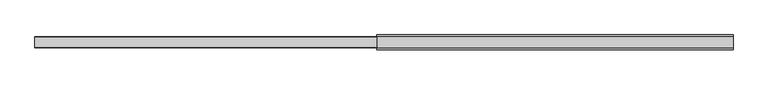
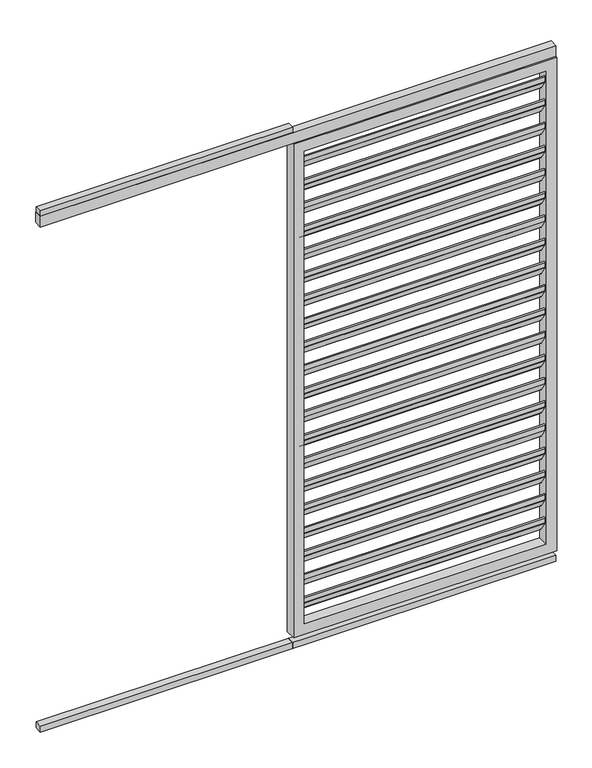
"""IFC4 building model written with IfcOpenShell, lengths in millimetres: proxy geometry, Renson_Algarve_Loggia_Paro_Aluminium : Renson_Algarve_Loggia_Paro_Aluminium."""

from ifc_helpers import new_model, si_unit, point, frame, frame_2d, origin, origin_with_axes, place, context, project, spatial, polyline, circle_curve, trimmed, segment, composite_curve, outline, extrude, source, transform, mapped, element, save


def generic_models_435024a3(model_context):
    return source(origin(), model_context, "Body", "SweptSolid", [
        extrude(outline(composite_curve([segment(polyline([(-10.1515804, 1894.292689), (14.3324079, 1856.5906532), (14.3324079, 1837.3412281)]), True, "CONTINUOUS"), segment(trimmed(circle_curve(frame_2d((11.3324079, 1837.3412281)), 3.0), [point((14.3324079, 1837.3412281))], [point((8.8163962, 1835.707311))], False, "CARTESIAN"), True, "CONTINUOUS"), segment(polyline([(8.8163962, 1835.707311), (-15.1836038, 1872.6640702)]), True, "CONTINUOUS"), segment(trimmed(circle_curve(frame_2d((-12.6675921, 1874.2979873)), 3.0), [point((-15.1836038, 1872.6640702))], [point((-15.6675921, 1874.2979873))], False, "CARTESIAN"), True, "CONTINUOUS"), segment(polyline([(-15.6675921, 1874.2979873), (-15.6675921, 1892.6587719)]), True, "CONTINUOUS"), segment(trimmed(circle_curve(frame_2d((-12.6675921, 1892.6587719)), 3.0), [point((-15.6675921, 1892.6587719))], [point((-10.1515804, 1894.292689))], False, "CARTESIAN"), True, "CONTINUOUS")], self_intersect=False)), frame((-442.5, 0.0, 0.0), z_axis=(1.0, 0.0, 0.0), x_axis=(0.0, 1.0, 0.0)), (0.0, 0.0, 1.0), 885.0),
        extrude(outline(composite_curve([segment(polyline([(-10.1515804, 1804.292689), (14.3324079, 1766.5906532), (14.3324079, 1747.3412281)]), True, "CONTINUOUS"), segment(trimmed(circle_curve(frame_2d((11.3324079, 1747.3412281)), 3.0), [point((14.3324079, 1747.3412281))], [point((8.8163962, 1745.707311))], False, "CARTESIAN"), True, "CONTINUOUS"), segment(polyline([(8.8163962, 1745.707311), (-15.1836038, 1782.6640702)]), True, "CONTINUOUS"), segment(trimmed(circle_curve(frame_2d((-12.6675921, 1784.2979873)), 3.0), [point((-15.1836038, 1782.6640702))], [point((-15.6675921, 1784.2979873))], False, "CARTESIAN"), True, "CONTINUOUS"), segment(polyline([(-15.6675921, 1784.2979873), (-15.6675921, 1802.6587719)]), True, "CONTINUOUS"), segment(trimmed(circle_curve(frame_2d((-12.6675921, 1802.6587719)), 3.0), [point((-15.6675921, 1802.6587719))], [point((-10.1515804, 1804.292689))], False, "CARTESIAN"), True, "CONTINUOUS")], self_intersect=False)), frame((-442.5, 0.0, 0.0), z_axis=(1.0, 0.0, 0.0), x_axis=(0.0, 1.0, 0.0)), (0.0, 0.0, 1.0), 885.0),
        extrude(outline(composite_curve([segment(polyline([(-10.1515804, 1714.292689), (14.3324079, 1676.5906532), (14.3324079, 1657.3412281)]), True, "CONTINUOUS"), segment(trimmed(circle_curve(frame_2d((11.3324079, 1657.3412281)), 3.0), [point((14.3324079, 1657.3412281))], [point((8.8163962, 1655.707311))], False, "CARTESIAN"), True, "CONTINUOUS"), segment(polyline([(8.8163962, 1655.707311), (-15.1836038, 1692.6640702)]), True, "CONTINUOUS"), segment(trimmed(circle_curve(frame_2d((-12.6675921, 1694.2979873)), 3.0), [point((-15.1836038, 1692.6640702))], [point((-15.6675921, 1694.2979873))], False, "CARTESIAN"), True, "CONTINUOUS"), segment(polyline([(-15.6675921, 1694.2979873), (-15.6675921, 1712.6587719)]), True, "CONTINUOUS"), segment(trimmed(circle_curve(frame_2d((-12.6675921, 1712.6587719)), 3.0), [point((-15.6675921, 1712.6587719))], [point((-10.1515804, 1714.292689))], False, "CARTESIAN"), True, "CONTINUOUS")], self_intersect=False)), frame((-442.5, 0.0, 0.0), z_axis=(1.0, 0.0, 0.0), x_axis=(0.0, 1.0, 0.0)), (0.0, 0.0, 1.0), 885.0),
        extrude(outline(composite_curve([segment(polyline([(-10.1515804, 1624.292689), (14.3324079, 1586.5906532), (14.3324079, 1567.3412281)]), True, "CONTINUOUS"), segment(trimmed(circle_curve(frame_2d((11.3324079, 1567.3412281)), 3.0), [point((14.3324079, 1567.3412281))], [point((8.8163962, 1565.707311))], False, "CARTESIAN"), True, "CONTINUOUS"), segment(polyline([(8.8163962, 1565.707311), (-15.1836038, 1602.6640702)]), True, "CONTINUOUS"), segment(trimmed(circle_curve(frame_2d((-12.6675921, 1604.2979873)), 3.0), [point((-15.1836038, 1602.6640702))], [point((-15.6675921, 1604.2979873))], False, "CARTESIAN"), True, "CONTINUOUS"), segment(polyline([(-15.6675921, 1604.2979873), (-15.6675921, 1622.6587719)]), True, "CONTINUOUS"), segment(trimmed(circle_curve(frame_2d((-12.6675921, 1622.6587719)), 3.0), [point((-15.6675921, 1622.6587719))], [point((-10.1515804, 1624.292689))], False, "CARTESIAN"), True, "CONTINUOUS")], self_intersect=False)), frame((-442.5, 0.0, 0.0), z_axis=(1.0, 0.0, 0.0), x_axis=(0.0, 1.0, 0.0)), (0.0, 0.0, 1.0), 885.0),
        extrude(outline(composite_curve([segment(polyline([(-10.1515804, 1534.292689), (14.3324079, 1496.5906532), (14.3324079, 1477.3412281)]), True, "CONTINUOUS"), segment(trimmed(circle_curve(frame_2d((11.3324079, 1477.3412281)), 3.0), [point((14.3324079, 1477.3412281))], [point((8.8163962, 1475.707311))], False, "CARTESIAN"), True, "CONTINUOUS"), segment(polyline([(8.8163962, 1475.707311), (-15.1836038, 1512.6640702)]), True, "CONTINUOUS"), segment(trimmed(circle_curve(frame_2d((-12.6675921, 1514.2979873)), 3.0), [point((-15.1836038, 1512.6640702))], [point((-15.6675921, 1514.2979873))], False, "CARTESIAN"), True, "CONTINUOUS"), segment(polyline([(-15.6675921, 1514.2979873), (-15.6675921, 1532.6587719)]), True, "CONTINUOUS"), segment(trimmed(circle_curve(frame_2d((-12.6675921, 1532.6587719)), 3.0), [point((-15.6675921, 1532.6587719))], [point((-10.1515804, 1534.292689))], False, "CARTESIAN"), True, "CONTINUOUS")], self_intersect=False)), frame((-442.5, 0.0, 0.0), z_axis=(1.0, 0.0, 0.0), x_axis=(0.0, 1.0, 0.0)), (0.0, 0.0, 1.0), 885.0),
        extrude(outline(composite_curve([segment(polyline([(-10.1515804, 1444.292689), (14.3324079, 1406.5906532), (14.3324079, 1387.3412281)]), True, "CONTINUOUS"), segment(trimmed(circle_curve(frame_2d((11.3324079, 1387.3412281)), 3.0), [point((14.3324079, 1387.3412281))], [point((8.8163962, 1385.707311))], False, "CARTESIAN"), True, "CONTINUOUS"), segment(polyline([(8.8163962, 1385.707311), (-15.1836038, 1422.6640702)]), True, "CONTINUOUS"), segment(trimmed(circle_curve(frame_2d((-12.6675921, 1424.2979873)), 3.0), [point((-15.1836038, 1422.6640702))], [point((-15.6675921, 1424.2979873))], False, "CARTESIAN"), True, "CONTINUOUS"), segment(polyline([(-15.6675921, 1424.2979873), (-15.6675921, 1442.6587719)]), True, "CONTINUOUS"), segment(trimmed(circle_curve(frame_2d((-12.6675921, 1442.6587719)), 3.0), [point((-15.6675921, 1442.6587719))], [point((-10.1515804, 1444.292689))], False, "CARTESIAN"), True, "CONTINUOUS")], self_intersect=False)), frame((-442.5, 0.0, 0.0), z_axis=(1.0, 0.0, 0.0), x_axis=(0.0, 1.0, 0.0)), (0.0, 0.0, 1.0), 885.0),
        extrude(outline(composite_curve([segment(polyline([(-10.1515804, 1354.292689), (14.3324079, 1316.5906532), (14.3324079, 1297.3412281)]), True, "CONTINUOUS"), segment(trimmed(circle_curve(frame_2d((11.3324079, 1297.3412281)), 3.0), [point((14.3324079, 1297.3412281))], [point((8.8163962, 1295.707311))], False, "CARTESIAN"), True, "CONTINUOUS"), segment(polyline([(8.8163962, 1295.707311), (-15.1836038, 1332.6640702)]), True, "CONTINUOUS"), segment(trimmed(circle_curve(frame_2d((-12.6675921, 1334.2979873)), 3.0), [point((-15.1836038, 1332.6640702))], [point((-15.6675921, 1334.2979873))], False, "CARTESIAN"), True, "CONTINUOUS"), segment(polyline([(-15.6675921, 1334.2979873), (-15.6675921, 1352.6587719)]), True, "CONTINUOUS"), segment(trimmed(circle_curve(frame_2d((-12.6675921, 1352.6587719)), 3.0), [point((-15.6675921, 1352.6587719))], [point((-10.1515804, 1354.292689))], False, "CARTESIAN"), True, "CONTINUOUS")], self_intersect=False)), frame((-442.5, 0.0, 0.0), z_axis=(1.0, 0.0, 0.0), x_axis=(0.0, 1.0, 0.0)), (0.0, 0.0, 1.0), 885.0),
        extrude(outline(composite_curve([segment(polyline([(-10.1515804, 1264.292689), (14.3324079, 1226.5906532), (14.3324079, 1207.3412281)]), True, "CONTINUOUS"), segment(trimmed(circle_curve(frame_2d((11.3324079, 1207.3412281)), 3.0), [point((14.3324079, 1207.3412281))], [point((8.8163962, 1205.707311))], False, "CARTESIAN"), True, "CONTINUOUS"), segment(polyline([(8.8163962, 1205.707311), (-15.1836038, 1242.6640702)]), True, "CONTINUOUS"), segment(trimmed(circle_curve(frame_2d((-12.6675921, 1244.2979873)), 3.0), [point((-15.1836038, 1242.6640702))], [point((-15.6675921, 1244.2979873))], False, "CARTESIAN"), True, "CONTINUOUS"), segment(polyline([(-15.6675921, 1244.2979873), (-15.6675921, 1262.6587719)]), True, "CONTINUOUS"), segment(trimmed(circle_curve(frame_2d((-12.6675921, 1262.6587719)), 3.0), [point((-15.6675921, 1262.6587719))], [point((-10.1515804, 1264.292689))], False, "CARTESIAN"), True, "CONTINUOUS")], self_intersect=False)), frame((-442.5, 0.0, 0.0), z_axis=(1.0, 0.0, 0.0), x_axis=(0.0, 1.0, 0.0)), (0.0, 0.0, 1.0), 885.0),
        extrude(outline(composite_curve([segment(polyline([(-10.1515804, 1174.292689), (14.3324079, 1136.5906532), (14.3324079, 1117.3412281)]), True, "CONTINUOUS"), segment(trimmed(circle_curve(frame_2d((11.3324079, 1117.3412281)), 3.0), [point((14.3324079, 1117.3412281))], [point((8.8163962, 1115.707311))], False, "CARTESIAN"), True, "CONTINUOUS"), segment(polyline([(8.8163962, 1115.707311), (-15.1836038, 1152.6640702)]), True, "CONTINUOUS"), segment(trimmed(circle_curve(frame_2d((-12.6675921, 1154.2979873)), 3.0), [point((-15.1836038, 1152.6640702))], [point((-15.6675921, 1154.2979873))], False, "CARTESIAN"), True, "CONTINUOUS"), segment(polyline([(-15.6675921, 1154.2979873), (-15.6675921, 1172.6587719)]), True, "CONTINUOUS"), segment(trimmed(circle_curve(frame_2d((-12.6675921, 1172.6587719)), 3.0), [point((-15.6675921, 1172.6587719))], [point((-10.1515804, 1174.292689))], False, "CARTESIAN"), True, "CONTINUOUS")], self_intersect=False)), frame((-442.5, 0.0, 0.0), z_axis=(1.0, 0.0, 0.0), x_axis=(0.0, 1.0, 0.0)), (0.0, 0.0, 1.0), 885.0),
        extrude(outline(composite_curve([segment(polyline([(-10.1515804, 1084.292689), (14.3324079, 1046.5906532), (14.3324079, 1027.3412281)]), True, "CONTINUOUS"), segment(trimmed(circle_curve(frame_2d((11.3324079, 1027.3412281)), 3.0), [point((14.3324079, 1027.3412281))], [point((8.8163962, 1025.707311))], False, "CARTESIAN"), True, "CONTINUOUS"), segment(polyline([(8.8163962, 1025.707311), (-15.1836038, 1062.6640702)]), True, "CONTINUOUS"), segment(trimmed(circle_curve(frame_2d((-12.6675921, 1064.2979873)), 3.0), [point((-15.1836038, 1062.6640702))], [point((-15.6675921, 1064.2979873))], False, "CARTESIAN"), True, "CONTINUOUS"), segment(polyline([(-15.6675921, 1064.2979873), (-15.6675921, 1082.6587719)]), True, "CONTINUOUS"), segment(trimmed(circle_curve(frame_2d((-12.6675921, 1082.6587719)), 3.0), [point((-15.6675921, 1082.6587719))], [point((-10.1515804, 1084.292689))], False, "CARTESIAN"), True, "CONTINUOUS")], self_intersect=False)), frame((-442.5, 0.0, 0.0), z_axis=(1.0, 0.0, 0.0), x_axis=(0.0, 1.0, 0.0)), (0.0, 0.0, 1.0), 885.0),
        extrude(outline(composite_curve([segment(polyline([(-10.1515804, 994.292689), (14.3324079, 956.5906532), (14.3324079, 937.3412281)]), True, "CONTINUOUS"), segment(trimmed(circle_curve(frame_2d((11.3324079, 937.3412281)), 3.0), [point((14.3324079, 937.3412281))], [point((8.8163962, 935.707311))], False, "CARTESIAN"), True, "CONTINUOUS"), segment(polyline([(8.8163962, 935.707311), (-15.1836038, 972.6640702)]), True, "CONTINUOUS"), segment(trimmed(circle_curve(frame_2d((-12.6675921, 974.2979873)), 3.0), [point((-15.1836038, 972.6640702))], [point((-15.6675921, 974.2979873))], False, "CARTESIAN"), True, "CONTINUOUS"), segment(polyline([(-15.6675921, 974.2979873), (-15.6675921, 992.6587719)]), True, "CONTINUOUS"), segment(trimmed(circle_curve(frame_2d((-12.6675921, 992.6587719)), 3.0), [point((-15.6675921, 992.6587719))], [point((-10.1515804, 994.292689))], False, "CARTESIAN"), True, "CONTINUOUS")], self_intersect=False)), frame((-442.5, 0.0, 0.0), z_axis=(1.0, 0.0, 0.0), x_axis=(0.0, 1.0, 0.0)), (0.0, 0.0, 1.0), 885.0),
        extrude(outline(composite_curve([segment(polyline([(-10.1515804, 904.292689), (14.3324079, 866.5906532), (14.3324079, 847.3412281)]), True, "CONTINUOUS"), segment(trimmed(circle_curve(frame_2d((11.3324079, 847.3412281)), 3.0), [point((14.3324079, 847.3412281))], [point((8.8163962, 845.707311))], False, "CARTESIAN"), True, "CONTINUOUS"), segment(polyline([(8.8163962, 845.707311), (-15.1836038, 882.6640702)]), True, "CONTINUOUS"), segment(trimmed(circle_curve(frame_2d((-12.6675921, 884.2979873)), 3.0), [point((-15.1836038, 882.6640702))], [point((-15.6675921, 884.2979873))], False, "CARTESIAN"), True, "CONTINUOUS"), segment(polyline([(-15.6675921, 884.2979873), (-15.6675921, 902.6587719)]), True, "CONTINUOUS"), segment(trimmed(circle_curve(frame_2d((-12.6675921, 902.6587719)), 3.0), [point((-15.6675921, 902.6587719))], [point((-10.1515804, 904.292689))], False, "CARTESIAN"), True, "CONTINUOUS")], self_intersect=False)), frame((-442.5, 0.0, 0.0), z_axis=(1.0, 0.0, 0.0), x_axis=(0.0, 1.0, 0.0)), (0.0, 0.0, 1.0), 885.0),
        extrude(outline(composite_curve([segment(polyline([(-10.1515804, 814.292689), (14.3324079, 776.5906532), (14.3324079, 757.3412281)]), True, "CONTINUOUS"), segment(trimmed(circle_curve(frame_2d((11.3324079, 757.3412281)), 3.0), [point((14.3324079, 757.3412281))], [point((8.8163962, 755.707311))], False, "CARTESIAN"), True, "CONTINUOUS"), segment(polyline([(8.8163962, 755.707311), (-15.1836038, 792.6640702)]), True, "CONTINUOUS"), segment(trimmed(circle_curve(frame_2d((-12.6675921, 794.2979873)), 3.0), [point((-15.1836038, 792.6640702))], [point((-15.6675921, 794.2979873))], False, "CARTESIAN"), True, "CONTINUOUS"), segment(polyline([(-15.6675921, 794.2979873), (-15.6675921, 812.6587719)]), True, "CONTINUOUS"), segment(trimmed(circle_curve(frame_2d((-12.6675921, 812.6587719)), 3.0), [point((-15.6675921, 812.6587719))], [point((-10.1515804, 814.292689))], False, "CARTESIAN"), True, "CONTINUOUS")], self_intersect=False)), frame((-442.5, 0.0, 0.0), z_axis=(1.0, 0.0, 0.0), x_axis=(0.0, 1.0, 0.0)), (0.0, 0.0, 1.0), 885.0),
        extrude(outline(composite_curve([segment(polyline([(-10.1515804, 724.292689), (14.3324079, 686.5906532), (14.3324079, 667.3412281)]), True, "CONTINUOUS"), segment(trimmed(circle_curve(frame_2d((11.3324079, 667.3412281)), 3.0), [point((14.3324079, 667.3412281))], [point((8.8163962, 665.707311))], False, "CARTESIAN"), True, "CONTINUOUS"), segment(polyline([(8.8163962, 665.707311), (-15.1836038, 702.6640702)]), True, "CONTINUOUS"), segment(trimmed(circle_curve(frame_2d((-12.6675921, 704.2979873)), 3.0), [point((-15.1836038, 702.6640702))], [point((-15.6675921, 704.2979873))], False, "CARTESIAN"), True, "CONTINUOUS"), segment(polyline([(-15.6675921, 704.2979873), (-15.6675921, 722.6587719)]), True, "CONTINUOUS"), segment(trimmed(circle_curve(frame_2d((-12.6675921, 722.6587719)), 3.0), [point((-15.6675921, 722.6587719))], [point((-10.1515804, 724.292689))], False, "CARTESIAN"), True, "CONTINUOUS")], self_intersect=False)), frame((-442.5, 0.0, 0.0), z_axis=(1.0, 0.0, 0.0), x_axis=(0.0, 1.0, 0.0)), (0.0, 0.0, 1.0), 885.0),
        extrude(outline(composite_curve([segment(polyline([(-10.1515804, 634.292689), (14.3324079, 596.5906532), (14.3324079, 577.3412281)]), True, "CONTINUOUS"), segment(trimmed(circle_curve(frame_2d((11.3324079, 577.3412281)), 3.0), [point((14.3324079, 577.3412281))], [point((8.8163962, 575.707311))], False, "CARTESIAN"), True, "CONTINUOUS"), segment(polyline([(8.8163962, 575.707311), (-15.1836038, 612.6640702)]), True, "CONTINUOUS"), segment(trimmed(circle_curve(frame_2d((-12.6675921, 614.2979873)), 3.0), [point((-15.1836038, 612.6640702))], [point((-15.6675921, 614.2979873))], False, "CARTESIAN"), True, "CONTINUOUS"), segment(polyline([(-15.6675921, 614.2979873), (-15.6675921, 632.6587719)]), True, "CONTINUOUS"), segment(trimmed(circle_curve(frame_2d((-12.6675921, 632.6587719)), 3.0), [point((-15.6675921, 632.6587719))], [point((-10.1515804, 634.292689))], False, "CARTESIAN"), True, "CONTINUOUS")], self_intersect=False)), frame((-442.5, 0.0, 0.0), z_axis=(1.0, 0.0, 0.0), x_axis=(0.0, 1.0, 0.0)), (0.0, 0.0, 1.0), 885.0),
        extrude(outline(composite_curve([segment(polyline([(-10.1515804, 544.292689), (14.3324079, 506.5906532), (14.3324079, 487.3412281)]), True, "CONTINUOUS"), segment(trimmed(circle_curve(frame_2d((11.3324079, 487.3412281)), 3.0), [point((14.3324079, 487.3412281))], [point((8.8163962, 485.707311))], False, "CARTESIAN"), True, "CONTINUOUS"), segment(polyline([(8.8163962, 485.707311), (-15.1836038, 522.6640702)]), True, "CONTINUOUS"), segment(trimmed(circle_curve(frame_2d((-12.6675921, 524.2979873)), 3.0), [point((-15.1836038, 522.6640702))], [point((-15.6675921, 524.2979873))], False, "CARTESIAN"), True, "CONTINUOUS"), segment(polyline([(-15.6675921, 524.2979873), (-15.6675921, 542.6587719)]), True, "CONTINUOUS"), segment(trimmed(circle_curve(frame_2d((-12.6675921, 542.6587719)), 3.0), [point((-15.6675921, 542.6587719))], [point((-10.1515804, 544.292689))], False, "CARTESIAN"), True, "CONTINUOUS")], self_intersect=False)), frame((-442.5, 0.0, 0.0), z_axis=(1.0, 0.0, 0.0), x_axis=(0.0, 1.0, 0.0)), (0.0, 0.0, 1.0), 885.0),
        extrude(outline(composite_curve([segment(polyline([(-10.1515804, 454.292689), (14.3324079, 416.5906532), (14.3324079, 397.3412281)]), True, "CONTINUOUS"), segment(trimmed(circle_curve(frame_2d((11.3324079, 397.3412281)), 3.0), [point((14.3324079, 397.3412281))], [point((8.8163962, 395.707311))], False, "CARTESIAN"), True, "CONTINUOUS"), segment(polyline([(8.8163962, 395.707311), (-15.1836038, 432.6640702)]), True, "CONTINUOUS"), segment(trimmed(circle_curve(frame_2d((-12.6675921, 434.2979873)), 3.0), [point((-15.1836038, 432.6640702))], [point((-15.6675921, 434.2979873))], False, "CARTESIAN"), True, "CONTINUOUS"), segment(polyline([(-15.6675921, 434.2979873), (-15.6675921, 452.6587719)]), True, "CONTINUOUS"), segment(trimmed(circle_curve(frame_2d((-12.6675921, 452.6587719)), 3.0), [point((-15.6675921, 452.6587719))], [point((-10.1515804, 454.292689))], False, "CARTESIAN"), True, "CONTINUOUS")], self_intersect=False)), frame((-442.5, 0.0, 0.0), z_axis=(1.0, 0.0, 0.0), x_axis=(0.0, 1.0, 0.0)), (0.0, 0.0, 1.0), 885.0),
        extrude(outline(composite_curve([segment(polyline([(-10.1515804, 364.292689), (14.3324079, 326.5906532), (14.3324079, 307.3412281)]), True, "CONTINUOUS"), segment(trimmed(circle_curve(frame_2d((11.3324079, 307.3412281)), 3.0), [point((14.3324079, 307.3412281))], [point((8.8163962, 305.707311))], False, "CARTESIAN"), True, "CONTINUOUS"), segment(polyline([(8.8163962, 305.707311), (-15.1836038, 342.6640702)]), True, "CONTINUOUS"), segment(trimmed(circle_curve(frame_2d((-12.6675921, 344.2979873)), 3.0), [point((-15.1836038, 342.6640702))], [point((-15.6675921, 344.2979873))], False, "CARTESIAN"), True, "CONTINUOUS"), segment(polyline([(-15.6675921, 344.2979873), (-15.6675921, 362.6587719)]), True, "CONTINUOUS"), segment(trimmed(circle_curve(frame_2d((-12.6675921, 362.6587719)), 3.0), [point((-15.6675921, 362.6587719))], [point((-10.1515804, 364.292689))], False, "CARTESIAN"), True, "CONTINUOUS")], self_intersect=False)), frame((-442.5, 0.0, 0.0), z_axis=(1.0, 0.0, 0.0), x_axis=(0.0, 1.0, 0.0)), (0.0, 0.0, 1.0), 885.0),
        extrude(outline(composite_curve([segment(polyline([(-10.1515804, 274.292689), (14.3324079, 236.5906532), (14.3324079, 217.3412281)]), True, "CONTINUOUS"), segment(trimmed(circle_curve(frame_2d((11.3324079, 217.3412281)), 3.0), [point((14.3324079, 217.3412281))], [point((8.8163962, 215.707311))], False, "CARTESIAN"), True, "CONTINUOUS"), segment(polyline([(8.8163962, 215.707311), (-15.1836038, 252.6640702)]), True, "CONTINUOUS"), segment(trimmed(circle_curve(frame_2d((-12.6675921, 254.2979873)), 3.0), [point((-15.1836038, 252.6640702))], [point((-15.6675921, 254.2979873))], False, "CARTESIAN"), True, "CONTINUOUS"), segment(polyline([(-15.6675921, 254.2979873), (-15.6675921, 272.6587719)]), True, "CONTINUOUS"), segment(trimmed(circle_curve(frame_2d((-12.6675921, 272.6587719)), 3.0), [point((-15.6675921, 272.6587719))], [point((-10.1515804, 274.292689))], False, "CARTESIAN"), True, "CONTINUOUS")], self_intersect=False)), frame((-442.5, 0.0, 0.0), z_axis=(1.0, 0.0, 0.0), x_axis=(0.0, 1.0, 0.0)), (0.0, 0.0, 1.0), 885.0),
        extrude(outline(composite_curve([segment(polyline([(-10.1515804, 184.292689), (14.3324079, 146.5906532), (14.3324079, 127.3412281)]), True, "CONTINUOUS"), segment(trimmed(circle_curve(frame_2d((11.3324079, 127.3412281)), 3.0), [point((14.3324079, 127.3412281))], [point((8.8163962, 125.707311))], False, "CARTESIAN"), True, "CONTINUOUS"), segment(polyline([(8.8163962, 125.707311), (-15.1836038, 162.6640702)]), True, "CONTINUOUS"), segment(trimmed(circle_curve(frame_2d((-12.6675921, 164.2979873)), 3.0), [point((-15.1836038, 162.6640702))], [point((-15.6675921, 164.2979873))], False, "CARTESIAN"), True, "CONTINUOUS"), segment(polyline([(-15.6675921, 164.2979873), (-15.6675921, 182.6587719)]), True, "CONTINUOUS"), segment(trimmed(circle_curve(frame_2d((-12.6675921, 182.6587719)), 3.0), [point((-15.6675921, 182.6587719))], [point((-10.1515804, 184.292689))], False, "CARTESIAN"), True, "CONTINUOUS")], self_intersect=False)), frame((-442.5, 0.0, 0.0), z_axis=(1.0, 0.0, 0.0), x_axis=(0.0, 1.0, 0.0)), (0.0, 0.0, 1.0), 885.0),
        extrude(outline(polyline([(-481.5, 13.0), (-481.5, -14.0), (-1407.5, -14.0), (-1407.5, 13.0), (-481.5, 13.0)])), frame((0.0, 0.0, 2000.0), z_axis=(0.0, 0.0, 1.0), x_axis=(1.0, 0.0, 0.0)), (0.0, 0.0, 1.0), 20.0),
        extrude(outline(polyline([(482.5, -15.0), (-1407.5, -15.0), (-1407.5, 15.0), (482.5, 15.0), (482.5, -15.0)])), frame((0.0, 0.0, 1957.7138321), z_axis=(0.0, 0.0, 1.0), x_axis=(1.0, 0.0, 0.0)), (0.0, 0.0, 1.0), 42.2861679),
        extrude(outline(polyline([(-481.5, -15.0), (-482.5, -15.0), (-482.5, 15.0), (-481.5, 15.0), (-481.5, -15.0)])), frame((0.0, 0.0, 1957.7138321), z_axis=(0.0, 0.0, 1.0), x_axis=(1.0, 0.0, 0.0)), (0.0, 0.0, 1.0), 42.2861679),
        extrude(outline(polyline([(482.5, 13.0), (482.5, -14.0), (-1407.5, -14.0), (-1407.5, 13.0), (482.5, 13.0)])), origin_with_axes(), (0.0, 0.0, 1.0), 23.0),
        extrude(outline(polyline([(-481.5, 13.0), (-481.5, -14.0), (-482.5, -14.0), (-482.5, 13.0), (-481.5, 13.0)])), origin_with_axes(), (0.0, 0.0, 1.0), 23.0),
        extrude(outline(polyline([(1957.7138321, 482.5), (1957.7138321, -482.5), (45.0, -482.5), (45.0, 482.5), (1957.7138321, 482.5)]), holes=[polyline([(1917.7138321, -442.5), (1917.7138321, 442.5), (85.0, 442.5), (85.0, -442.5), (1917.7138321, -442.5)])]), frame((0.0, -20.0, 0.0), z_axis=(0.0, 1.0, 0.0), x_axis=(0.0, 0.0, 1.0)), (0.0, 0.0, 1.0), 40.0),
    ])


if __name__ == "__main__":
    model = new_model("IFC4")
    model_context = context("Model", 3, world=origin())
    ifc_project = project(units=[si_unit("LENGTHUNIT", "METRE", prefix="MILLI")], contexts=[model_context])
    site = spatial("IfcSite", under=ifc_project)
    building = spatial("IfcBuilding", under=site)
    placement = place(None, origin())
    generic_models_shape = generic_models_435024a3(model_context)
    element("IfcBuildingElementProxy", 1, Name="Renson_Algarve_Loggia_Paro_Aluminium : Renson_Algarve_Loggia_Paro_Aluminium", ObjectType="Renson_Algarve_Loggia_Paro_Aluminium : Renson_Algarve_Loggia_Paro_Aluminium", at=placement, inside=building, context=model_context, shape_type="MappedRepresentation", body=[
        mapped(generic_models_shape, transform((0.0, 0.0, 0.0), x_axis=(1.0, 0.0, 0.0), y_axis=(0.0, 1.0, 0.0), z_axis=(0.0, 0.0, 1.0))),
    ])
    save(model, "model.ifc")
